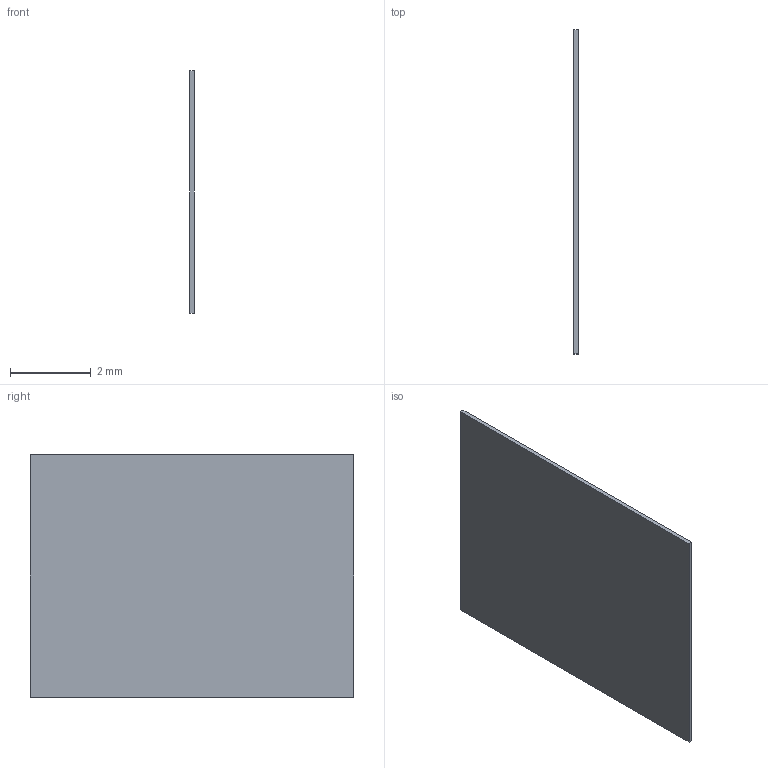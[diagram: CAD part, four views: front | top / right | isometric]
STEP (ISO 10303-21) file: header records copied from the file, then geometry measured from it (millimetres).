
FILE_DESCRIPTION(('Open CASCADE Model'),'2;1');
FILE_NAME('front_grip_PSA_patch_0.10_2','2026-09-04T19:55:25',('Author') ,('Open CASCADE'),'Open CASCADE STEP processor 7.8','build123d', 'Unknown');
FILE_SCHEMA(('AUTOMOTIVE_DESIGN { 1 0 10303 214 1 1 1 1 }'));
Length unit declared in the file: millimetre
Products named in the file (2): =>[0:1:1:2]; front_grip_PSA_patch_0.10_2
Assembly tree (1 placements, depth 2):
  =>[0:1:1:2]
    front_grip_PSA_patch_0.10_2
Bounding box: 0.1 x 8 x 6 mm (x, y, z)
Volume: 4.8 mm3; surface area: 98.8 mm2
Topology: 1 solids, 1 shells, 6 faces, 12 edges, 8 vertices
Faces by surface type: plane 6
Entity records: 349 total; most frequent: CARTESIAN_POINT 52, DIRECTION 52, LINE 36, VECTOR 36, ORIENTED_EDGE 24, PCURVE 24, DEFINITIONAL_REPRESENTATION 24, EDGE_CURVE 12
